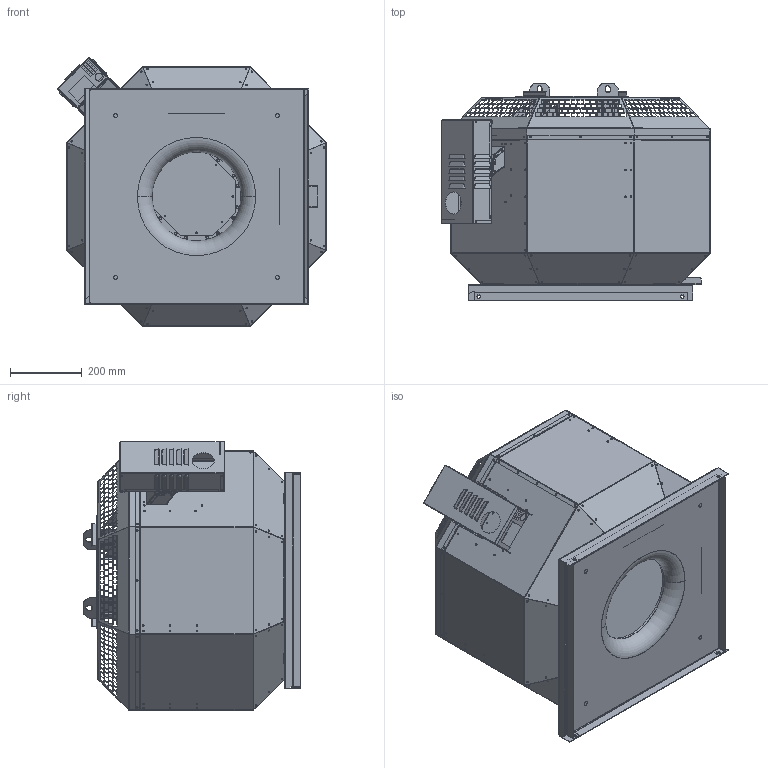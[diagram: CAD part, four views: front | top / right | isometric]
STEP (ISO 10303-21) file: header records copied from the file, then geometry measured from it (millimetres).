
FILE_DESCRIPTION (( 'STEP AP203' ), '1' );
FILE_NAME ('142185-00_DVN400D4F430_step.step', '2018-06-27T09:09:34', ( '' ), ( '' ), 'SwSTEP 2.0', 'SolidWorks 2017', '' );
FILE_SCHEMA (( 'CONFIG_CONTROL_DESIGN' ));
Products named in the file (1): 142185-00_DVN400D4F430_step
Bounding box: 747.23 x 605.01 x 747.23 mm (x, y, z)
Surface area: 4662564.7 mm2 (no closed solid volume)
Topology: 0 solids, 46 shells, 3459 faces, 14587 edges, 10420 vertices
Faces by surface type: plane 2961, cylinder 415, bspline 78, torus 5
Entity records: 169165 total; most frequent: CARTESIAN_POINT 47094, ORIENTED_EDGE 23319, DIRECTION 22542, EDGE_CURVE 14587, VECTOR 12494, LINE 12494, VERTEX_POINT 10420, EDGE_LOOP 6038
